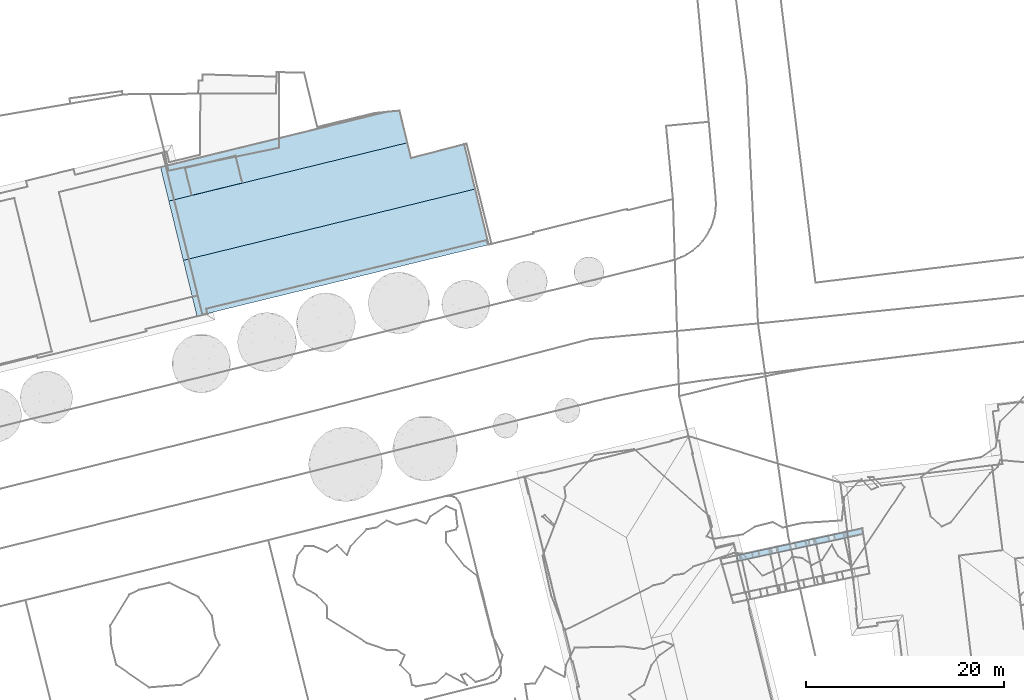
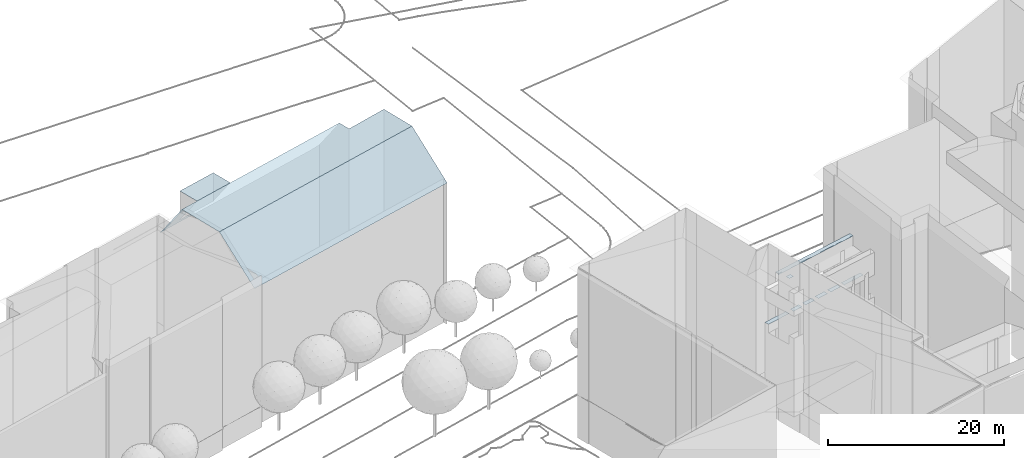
# Not in any storey, part 82 of 494: 9 roofs.
"""IFC2X3 model written with IfcOpenShell, lengths in metres."""

import ifcopenshell
import ifcopenshell.guid

model = None  # the IFC model being written
_history = None  # IfcOwnerHistory: only IFC2X3 demands one
_inside = {}  # id of a spatial element -> (the spatial element, [elements in it])
_under = {}  # id of a project, library or spatial element -> (it, [spatial elements below it])
_declared = {}  # id of a project -> (the project, [libraries it declares])
_typed = {}  # id of a type object -> (the type object, [elements of that type])
_made_of = {}  # id of a material, layer set ... -> (it, [elements and type objects made of it])


def new_model(schema):
    """Start an empty IFC model of exactly this schema.

    Asked for "IFC4X3", IfcOpenShell would pick the latest addendum, in which some entities
    have other attributes; the version numbers below select the first issue.
    IFC2X3 requires an IfcOwnerHistory on every rooted entity: one is made here for all.
    """
    global model, _history
    if schema == "IFC4X3":
        model = ifcopenshell.file(schema_version=(4, 3, 0, 0))
    else:
        model = ifcopenshell.file(schema=schema)
    _inside.clear()
    _under.clear()
    _declared.clear()
    _typed.clear()
    _made_of.clear()
    _history = None
    if model.schema == "IFC2X3":
        org = make("IfcOrganization", Name="unknown")
        user = make(
            "IfcPersonAndOrganization",
            ThePerson=make("IfcPerson", FamilyName="unknown"),
            TheOrganization=org,
        )
        app = make(
            "IfcApplication",
            ApplicationDeveloper=org,
            Version="unknown",
            ApplicationFullName="unknown",
            ApplicationIdentifier="unknown",
        )
        _history = make(
            "IfcOwnerHistory",
            OwningUser=user,
            OwningApplication=app,
            ChangeAction="ADDED",
            CreationDate=0,
        )
    return model


def make(cls, **values):
    """One entity of the class cls with the attributes given. An attribute that is None is left unset."""
    return model.create_entity(
        cls, **{name: value for name, value in values.items() if value is not None}
    )


def rooted(cls, **values):
    """An entity with a GlobalId (a new one), such as an element, a storey or a relation."""
    return make(cls, GlobalId=ifcopenshell.guid.new(), OwnerHistory=_history, **values)


def si_unit(unit_type, name, prefix=None):
    """IfcSIUnit, for example si_unit("LENGTHUNIT", "METRE", prefix="MILLI")."""
    return make("IfcSIUnit", UnitType=unit_type, Prefix=prefix, Name=name)


def assignment(units):
    """IfcUnitAssignment: the units of a project."""
    return None if units is None else make("IfcUnitAssignment", Units=units)


def point(xyz):
    """IfcCartesianPoint."""
    return None if xyz is None else make("IfcCartesianPoint", Coordinates=xyz)


def direction(xyz):
    """IfcDirection."""
    return None if xyz is None else make("IfcDirection", DirectionRatios=xyz)


def frame(location, z_axis=None, x_axis=None):
    """IfcAxis2Placement3D, a coordinate frame: its origin and axes. An axis left out is left unset."""
    return make(
        "IfcAxis2Placement3D",
        Location=point(location),
        Axis=direction(z_axis),
        RefDirection=direction(x_axis),
    )


def origin_with_axes():
    """The frame at (0, 0, 0) with the z axis (0, 0, 1) and the x axis (1, 0, 0) written out."""
    return frame((0.0, 0.0, 0.0), z_axis=(0.0, 0.0, 1.0), x_axis=(1.0, 0.0, 0.0))


def place(relative_to, where):
    """IfcLocalPlacement: puts the frame where relative to a parent placement (None: the world)."""
    return make(
        "IfcLocalPlacement", PlacementRelTo=relative_to, RelativePlacement=where
    )


def context(
    kind, dimensions, precision=None, world=None, true_north=None, identifier=None
):
    """IfcGeometricRepresentationContext, for example the 3D "Model" context."""
    return make(
        "IfcGeometricRepresentationContext",
        ContextIdentifier=identifier,
        ContextType=kind,
        CoordinateSpaceDimension=dimensions,
        Precision=precision,
        WorldCoordinateSystem=world,
        TrueNorth=true_north,
    )


def subcontext(parent, identifier, kind, view, scale=None):
    """IfcGeometricRepresentationSubContext, for example "Body" below "Model"."""
    return make(
        "IfcGeometricRepresentationSubContext",
        ContextIdentifier=identifier,
        ContextType=kind,
        ParentContext=parent,
        TargetScale=scale,
        TargetView=view,
    )


def project(units=None, contexts=None):
    """IfcProject with its units and contexts."""
    return rooted(
        "IfcProject",
        Name="project",
        RepresentationContexts=contexts,
        UnitsInContext=assignment(units),
    )


def faces_of(points, faces, orient=None, outer=None):
    """IfcFace entities. A face is a list of loops; a loop is a list of indices into points, from 0.

    orient and outer hold one flag for each loop. By default every Orientation is true, the
    first loop of a face is its IfcFaceOuterBound and the others are IfcFaceBound.
    """
    made = []
    for i, loops in enumerate(faces):
        bounds = []
        for j, loop in enumerate(loops):
            is_outer = j == 0 if outer is None else outer[i][j]
            bounds.append(
                make(
                    "IfcFaceOuterBound" if is_outer else "IfcFaceBound",
                    Bound=make("IfcPolyLoop", Polygon=[points[k] for k in loop]),
                    Orientation=True if orient is None else orient[i][j],
                )
            )
        made.append(make("IfcFace", Bounds=bounds))
    return made


def faceted_brep(points, faces, orient=None, outer=None, voids=None):
    """IfcFacetedBrep: a solid bounded by flat faces; with voids (closed shells), ...WithVoids."""
    shared = [point(p) for p in points]
    hull = make("IfcClosedShell", CfsFaces=faces_of(shared, faces, orient, outer))
    if voids is None:
        return make("IfcFacetedBrep", Outer=hull)
    return make(
        "IfcFacetedBrepWithVoids",
        Outer=hull,
        Voids=[
            make(cls, CfsFaces=faces_of(shared, fs, o, b)) for cls, fs, o, b in voids
        ],
    )


def shape(context_of_items, identifier, shape_type, items):
    """IfcShapeRepresentation: the items that make up one representation, for example the "Body"."""
    return make(
        "IfcShapeRepresentation",
        ContextOfItems=context_of_items,
        RepresentationIdentifier=identifier,
        RepresentationType=shape_type,
        Items=items,
    )


def made_of(thing, what):
    """Note that an element or type object is made of a material, layer set ...; save() writes the relation."""
    if what is not None:
        _made_of.setdefault(what.id(), (what, []))[1].append(thing)
    return thing


def element(
    cls,
    number,
    at=None,
    inside=None,
    cuts=None,
    type_object=None,
    material=None,
    context=None,
    identifier="Body",
    shape_type=None,
    held_by="IfcProductDefinitionShape",
    body=None,
    shapes=None,
    **own,
):
    """One element of the class cls, such as IfcWall. Its Tag is "e" and its number.

    at: its placement. inside: the storey or other place that contains it. cuts: it is an
    opening in that element (IfcRelVoidsElement). A single representation is given by context,
    identifier, shape_type and body (its items); several are given by shapes. held_by: the class
    of the entity that holds the representations. save() writes the other relations.
    """
    e = rooted(cls, Tag="e%d" % number, ObjectPlacement=at, **own)
    if body is not None:
        shapes = [shape(context, identifier, shape_type, body)]
    if shapes is not None:
        e.Representation = make(held_by, Representations=shapes)
    if inside is not None:
        _inside.setdefault(inside.id(), (inside, []))[1].append(e)
    if cuts is not None:
        rooted(
            "IfcRelVoidsElement", RelatingBuildingElement=cuts, RelatedOpeningElement=e
        )
    if type_object is not None:
        _typed.setdefault(type_object.id(), (type_object, []))[1].append(e)
    return made_of(e, material)


def aggregate(whole, parts):
    """IfcRelAggregates: a whole, such as a stair, and the parts it consists of."""
    return rooted("IfcRelAggregates", RelatingObject=whole, RelatedObjects=parts)


def save(model, path):
    """Write the relations noted so far, then the file.

    IfcRelAggregates (storeys below a building ...), IfcRelContainedInSpatialStructure (elements
    in a storey), IfcRelDefinesByType, IfcRelAssociatesMaterial and IfcRelDeclares: one each for
    every whole, place, type object, material and project.
    """
    for whole, parts in _under.values():
        aggregate(whole, parts)
    for where, things in _inside.values():
        rooted(
            "IfcRelContainedInSpatialStructure",
            RelatedElements=things,
            RelatingStructure=where,
        )
    for kind, things in _typed.values():
        rooted("IfcRelDefinesByType", RelatedObjects=things, RelatingType=kind)
    for what, things in _made_of.values():
        rooted("IfcRelAssociatesMaterial", RelatedObjects=things, RelatingMaterial=what)
    for by, libraries in _declared.values():
        rooted("IfcRelDeclares", RelatingContext=by, RelatedDefinitions=libraries)
    model.write(path)


model = new_model("IFC2X3")

# Units and contexts
model_context = context("Model", 3, precision=1e-05, world=origin_with_axes())
body_context = subcontext(model_context, "Body", "Model", "MODEL_VIEW")
ifc_project = project(units=[si_unit("AREAUNIT", "SQUARE_METRE"), si_unit("LENGTHUNIT", "METRE")], contexts=[model_context])

# Roofs
roof_1_placement = place(None, frame((211.8297320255, 101.9383160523, 526.7541), z_axis=(0.0, 0.0, 1.0), x_axis=(1.0, 0.0, 0.0)))
element("IfcRoof", 1, at=roof_1_placement, Name="Roof 10", ShapeType="NOTDEFINED", context=body_context, shape_type="Brep", body=[
    faceted_brep([(280.8269999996, 296.4990000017, 24.302), (280.7039999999, 297.066399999, 24.302), (279.5540000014, 296.2245999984, 24.302), (279.4310000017, 296.7919999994, 24.302)], [[[0, 1, 2]], [[3, 2, 1]]]),
])
roof_2_placement = place(None, frame((211.8297320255, 101.9383160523, 526.7541), z_axis=(0.0, 0.0, 1.0), x_axis=(1.0, 0.0, 0.0)))
element("IfcRoof", 2, at=roof_2_placement, Name="Roof 11", ShapeType="NOTDEFINED", context=body_context, shape_type="Brep", body=[
    faceted_brep([(290.0219999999, 298.4805000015, 24.302), (289.932, 299.0555999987, 24.302), (287.0490000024, 298.433600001, 24.302), (287.1720000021, 297.8662, 24.302)], [[[0, 1, 2]], [[2, 3, 0]]]),
])
roof_3_placement = place(None, frame((211.8297320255, 101.9383160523, 526.7541), z_axis=(0.0, 0.0, 1.0), x_axis=(1.0, 0.0, 0.0)))
element("IfcRoof", 3, at=roof_3_placement, Name="Roof 12", ShapeType="NOTDEFINED", context=body_context, shape_type="Brep", body=[
    faceted_brep([(278.9000000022, 296.0830000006, 24.302), (278.7770000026, 296.6513000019, 24.302), (275.7550000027, 295.4052999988, 24.302), (275.5940000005, 295.9648000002, 24.302)], [[[0, 1, 2]], [[3, 2, 1]]]),
])
roof_4_placement = place(None, frame((211.8297320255, 101.9383160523, 526.7541), z_axis=(0.0, 0.0, 1.0), x_axis=(1.0, 0.0, 0.0)))
element("IfcRoof", 4, at=roof_4_placement, Name="Roof 13", ShapeType="NOTDEFINED", context=body_context, shape_type="Brep", body=[
    faceted_brep([(286.6060000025, 297.7441000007, 24.302), (286.4840000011, 298.3115000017, 24.302), (285.0160000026, 297.995099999, 24.302), (285.1380000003, 297.4277000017, 24.302)], [[[0, 1, 2]], [[2, 3, 0]]]),
])
roof_5_placement = place(None, frame((211.8297320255, 101.9383160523, 526.7541), z_axis=(0.0, 0.0, 1.0), x_axis=(1.0, 0.0, 0.0)))
element("IfcRoof", 5, at=roof_5_placement, Name="Roof 14", ShapeType="NOTDEFINED", context=body_context, shape_type="Brep", body=[
    faceted_brep([(282.7180000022, 296.9061999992, 24.302), (282.5950000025, 297.4736000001, 24.302), (281.3619999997, 296.6141999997, 24.302), (281.2400000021, 297.1816000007, 24.302)], [[[0, 1, 2]], [[3, 2, 1]]]),
])
roof_6_placement = place(None, frame((211.8297320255, 101.9383160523, 526.7541), z_axis=(0.0, 0.0, 1.0), x_axis=(1.0, 0.0, 0.0)))
element("IfcRoof", 6, at=roof_6_placement, Name="Roof 15", ShapeType="NOTDEFINED", context=body_context, shape_type="Brep", body=[
    faceted_brep([(284.6220000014, 297.317400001, 24.302), (284.4970000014, 297.8838, 24.302), (283.2580000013, 297.0223999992, 24.302), (283.1359999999, 297.5898000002, 24.302)], [[[0, 1, 2]], [[3, 2, 1]]]),
])
roof_7_placement = place(None, frame((211.8297320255, 101.9383160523, 526.7541), z_axis=(0.0, 0.0, 1.0), x_axis=(1.0, 0.0, 0.0)))
element("IfcRoof", 7, at=roof_7_placement, Name="Roof 23", ShapeType="NOTDEFINED", context=body_context, shape_type="Brep", body=[
    faceted_brep([(279.5540000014, 296.2245999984, 29.1525), (279.4310000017, 296.7919999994, 29.1525), (278.9000000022, 296.0839999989, 29.1525), (278.7770000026, 296.6513999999, 29.1525)], [[[0, 1, 2]], [[3, 2, 1]]]),
])
roof_8_placement = place(None, frame((431.242732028, 438.998816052, 539.6453), z_axis=(0.0, 0.0, 1.0), x_axis=(1.0, 0.0, 0.0)))
element("IfcRoof", 8, at=roof_8_placement, Name="Roof 0", ShapeType="NOTDEFINED", context=body_context, shape_type="Brep", body=[
    faceted_brep([(7.1779999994, -0.3495999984, 24.6626), (2.068, -1.5975999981, 24.6626), (7.8469999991, -3.0887999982, 24.6876), (2.7369999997, -4.3387999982, 24.6876), (1.8779999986, -10.9131000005, 24.7096), (2.4399999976, -10.7762999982, 24.7096), (0.4129999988, -4.9228000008, 24.7096), (24.9079999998, -0.5839999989, 24.7096), (31.3829999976, -3.6981999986, 24.7096), (30.2819999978, 0.8027999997, 24.7096), (24.5299999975, 0.9746000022, 24.7096), (4.3189999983, -16.2899999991, 19.7351), (32.686999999, -9.3535000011, 19.735), (32.7599999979, -9.3348999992, 19.735), (3.2559999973, -16.5498000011, 19.7351), (3.8310000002, -16.4090999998, 19.7351), (2.7039999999, -4.2010999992, 24.4866), (0.1199999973, -1.3817999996, 19.7351), (-0.4220000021, -1.5135999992, 19.7351), (2.068, -1.5975999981, 20.689), (7.8139999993, -2.9512000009, 24.4866), (7.1779999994, -0.3495999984, 20.69), (22.436999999, 4.0762000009, 19.7351), (23.7479999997, 4.2061000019, 19.998)], [[[0, 1, 2]], [[3, 2, 1]], [[4, 5, 6]], [[5, 7, 6]], [[7, 8, 9]], [[8, 7, 5]], [[7, 10, 6]], [[8, 11, 12]], [[11, 8, 5]], [[12, 13, 8]], [[5, 4, 14]], [[14, 15, 5]], [[5, 15, 11]], [[3, 6, 2]], [[16, 6, 3]], [[17, 18, 19]], [[6, 19, 18]], [[16, 19, 6]], [[2, 10, 20]], [[10, 2, 6]], [[20, 10, 21]], [[21, 22, 17]], [[23, 22, 21]], [[21, 10, 23]], [[21, 17, 19]]]),
])
roof_9_placement = place(None, frame((373.5987320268, 371.2869160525, 536.8784), z_axis=(0.0, 0.0, 1.0), x_axis=(1.0, 0.0, 0.0)))
element("IfcRoof", 9, at=roof_9_placement, Name="Roof 3", ShapeType="NOTDEFINED", context=body_context, shape_type="Brep", body=[
    faceted_brep([(126.6469999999, 29.379900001, 20.3861), (115.574000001, 26.4706999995, 20.3861), (126.7179999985, 28.8007999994, 20.3861), (115.4510000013, 26.9668000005, 20.3861), (115.5229999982, 26.3876999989, 20.3861), (115.5069999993, 26.4541000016, 20.3861)], [[[0, 1, 2]], [[1, 0, 3]], [[2, 1, 4]], [[5, 4, 1]]]),
])

save(model, "model.ifc")
